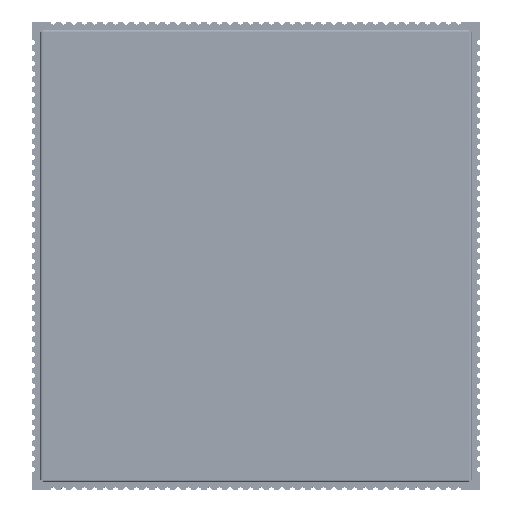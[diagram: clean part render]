
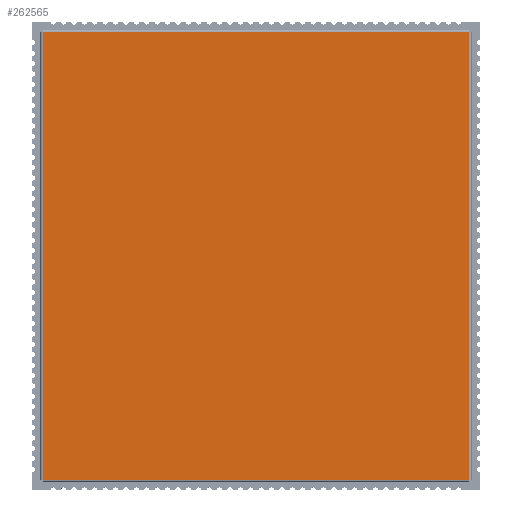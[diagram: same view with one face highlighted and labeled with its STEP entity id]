
A CAD part, top view. The second image highlights one B-rep face of the part: STEP entity #262565.
In plain terms, the highlighted planar face has unit normal (0, 0, 1) as drawn and (0, 1, 0) by its records, which use the part's own axes.
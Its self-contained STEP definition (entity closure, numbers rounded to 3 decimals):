
#259796=DIRECTION('',(0.,0.,-1.));
#259797=VECTOR('',#259796,43.06);
#259798=CARTESIAN_POINT('',(-20.53,0.2,21.53));
#259799=LINE('',#259798,#259797);
#260415=DIRECTION('',(-1.,0.,0.));
#260416=VECTOR('',#260415,41.06);
#260417=CARTESIAN_POINT('',(20.53,0.2,21.53));
#260418=LINE('',#260417,#260416);
#260445=DIRECTION('',(1.,0.,0.));
#260446=VECTOR('',#260445,41.06);
#260447=CARTESIAN_POINT('',(-20.53,0.2,-21.53));
#260448=LINE('',#260447,#260446);
#260998=DIRECTION('',(0.,0.,1.));
#260999=VECTOR('',#260998,43.06);
#261000=CARTESIAN_POINT('',(20.53,0.2,-21.53));
#261001=LINE('',#261000,#260999);
#261421=CARTESIAN_POINT('',(-20.53,0.2,-21.53));
#261422=VERTEX_POINT('',#261421);
#261423=CARTESIAN_POINT('',(-20.53,0.2,21.53));
#261424=VERTEX_POINT('',#261423);
#261433=CARTESIAN_POINT('',(20.53,0.2,21.53));
#261434=VERTEX_POINT('',#261433);
#261435=CARTESIAN_POINT('',(20.53,0.2,-21.53));
#261436=VERTEX_POINT('',#261435);
#262552=CARTESIAN_POINT('',(0.,0.2,0.));
#262553=DIRECTION('',(0.,1.,0.));
#262554=DIRECTION('',(1.,0.,0.));
#262555=AXIS2_PLACEMENT_3D('',#262552,#262553,#262554);
#262556=PLANE('',#262555);
#262557=ORIENTED_EDGE('',*,*,#262543,.T.);
#262558=ORIENTED_EDGE('',*,*,#262030,.T.);
#262560=ORIENTED_EDGE('',*,*,#262559,.T.);
#262562=ORIENTED_EDGE('',*,*,#262561,.T.);
#262563=EDGE_LOOP('',(#262557,#262558,#262560,#262562));
#262564=FACE_OUTER_BOUND('',#262563,.F.);
#262030=EDGE_CURVE('',#261424,#261422,#259799,.T.);
#262543=EDGE_CURVE('',#261434,#261424,#260418,.T.);
#262559=EDGE_CURVE('',#261422,#261436,#260448,.T.);
#262561=EDGE_CURVE('',#261436,#261434,#261001,.T.);
#262565=ADVANCED_FACE('',(#262564),#262556,.T.);
